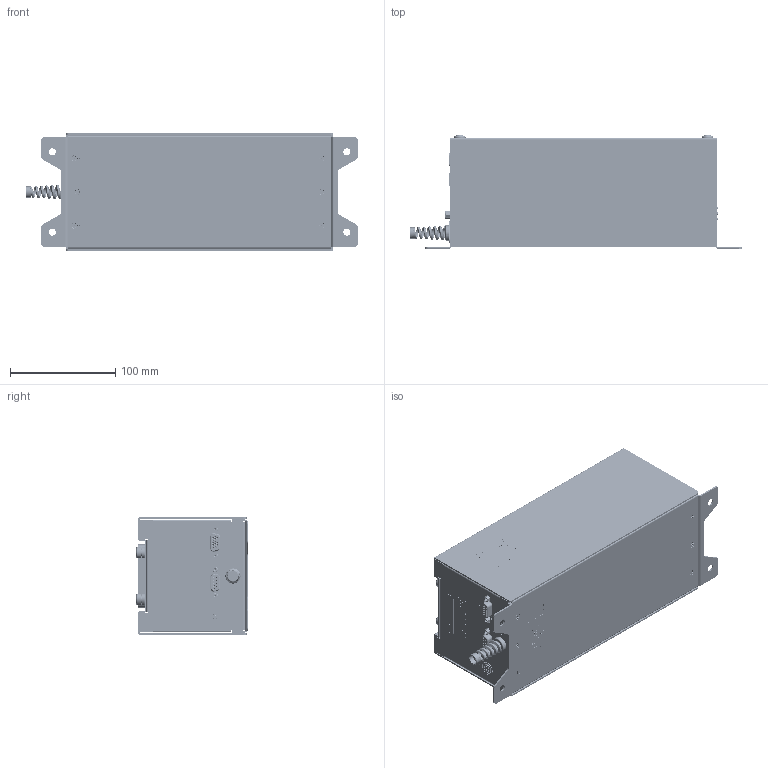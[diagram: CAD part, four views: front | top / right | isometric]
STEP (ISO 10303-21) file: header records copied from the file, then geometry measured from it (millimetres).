
FILE_DESCRIPTION (( 'STEP AP214' ), '1' );
FILE_NAME ('ASD-5394 Rev 1- Simplified.STEP', '2011-07-29T12:04:59', ( 'Ron Collins' ), ( 'Hewlett-Packard Company' ), 'SwSTEP 2.0', 'SolidWorks 2011', '' );
FILE_SCHEMA (( 'AUTOMOTIVE_DESIGN' ));
Length unit declared in the file: inch
Products named in the file (43): MPD-4302; MPD-4954; MPD-4540; LB00021; LB00019; MPD-5272; MPD-5465; 92125A190; 09250-G; ASD-5393_-01; TPS-125-6; PF50-632-0BN Fastened; CLS-M4-2; SKC-6060-2; MPD-5393_-01; ASD-5392_Step File Simplification; ASD-5496; MPD-5496; 93085A144; ASD-5413; CLS-632-2; MPD-5413; ASD-5495; BSOS-632-28; MPD-5495; HS1002B; 7228-5; 91772A144; 92146A540; ASD-5390_Step File Simplification; ASD-5388_Stand Alone - Simple; EQ-99e Main PCB Check Plot v7; 22-11-2022; 529802B02500G; DF5A-2P-5DSA; CMFB3970103JNT_RC; KPJX-4S-S; 553-0111-300F; C-1734348-1; 564-0100-222F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
Assembly tree (87 placements, depth 5):
  EQ-99e Main PCB Check Plot v7
  ASD-5394 Rev 1- Simplified
    92125A190  x4
    MPD-5465
    LB00019
    LB00021
    MPD-4540
    09250-G
    MPD-4302
    ASD-5393_-01
      CLS-M4-2  x4
      PF50-632-0BN Fastened  x4
      SKC-6060-2  x6
      TPS-125-6
      MPD-5393_-01
    MPD-5272
    ASD-5392_Step File Simplification
      7228-5  x4
      93085A144  x6
      92146A540  x6
      91772A144  x6
      ASD-5496
        CLS-632-2  x5
        MPD-5496
      ASD-5413
        MPD-5413
        CLS-632-2  x5
      ASD-5495
        BSOS-632-28  x6
        MPD-5495
      ASD-5390_Step File Simplification
        ASD-5388_Stand Alone - Simple
          CMFB3970103JNT_RC
          564-0100-222F
          KPJX-4S-S
          C-1734348-1
          DF5A-2P-5DSA
          22-11-2022
          553-0111-300F
          MPD-5387_Stand Alone - Simple
          C-1734344-1
          529802B02500G
      HS1002B
    MPD-4954
Bounding box: 314.89 x 107.12 x 111.18 mm (x, y, z)
Volume: 305230.2 mm3; surface area: 407005.5 mm2
Topology: 166 solids, 166 shells, 11001 faces, 28670 edges, 18838 vertices
Faces by surface type: plane 6555, bspline 2365, cylinder 1571, cone 476, torus 24, sphere 10
Entity records: 536706 total; most frequent: CARTESIAN_POINT 204044, ORIENTED_EDGE 51976, DIRECTION 38760, EDGE_CURVE 25988, LINE 18778, VECTOR 18778, VERTEX_POINT 17172, EDGE_LOOP 11158
